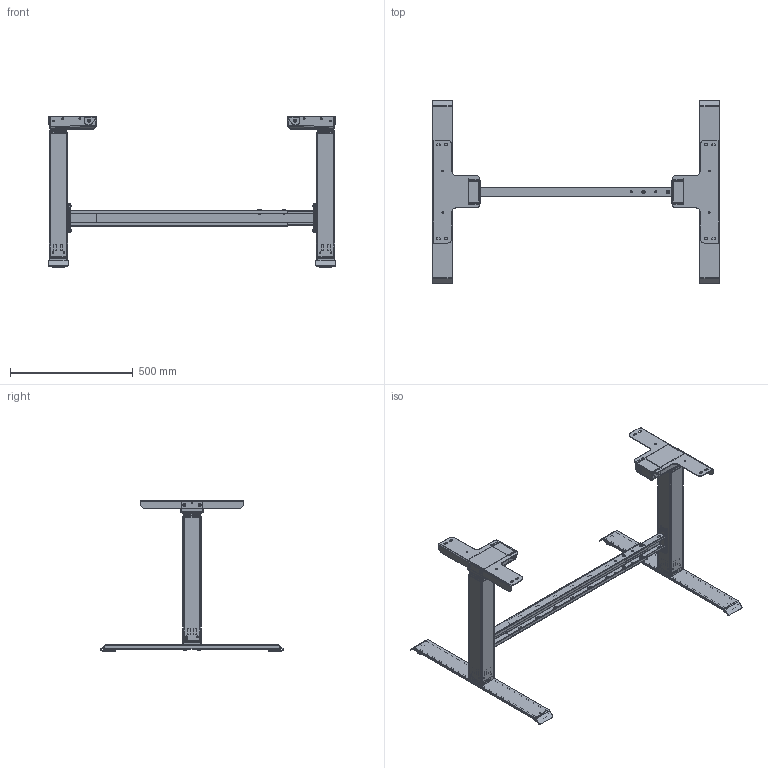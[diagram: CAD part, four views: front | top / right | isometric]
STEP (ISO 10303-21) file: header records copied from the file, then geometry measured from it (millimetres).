
FILE_DESCRIPTION(/* description */ ('Unknown'),/* implementation_level */ '2;1');
FILE_NAME(/* name */ 'Untergestell EA 2665 XX XX_00-Eingefahren',/* time_stamp */ '2025-11-05T10:37:11+01:00',/* author */ ('Unknown'),/* organization */ ('Unknown'),/* preprocessor_version */ 'ST-DEVELOPER v20',/* originating_system */ 'Solid Edge',/* authorisation */ 'Unknown');
FILE_SCHEMA (('AUTOMOTIVE_DESIGN {1 0 10303 214 3 1 1}'));
Products named in the file (22): Untergestell EA 2655 XX XX; 127.00821; EA2 Tischfuss unten; EA2 Tischfuss oben; Regulierfuss; 801.00036; EA Aussenprofil; EA Mittelprofil; EA Innenprofil; EA Motorengehäuse; EA Deckel; EA Molex; 127.00842; E1 Traverse aussen; E1 Traverse innen; Halbrundkopfschraube M6x16; Scheibe ﾘ6,4; Sechskantmutter M6; Halbrundkopfschraube M8x10; 127.00801; Senkschraube M6x12; Halbrundkopfschraube M6x32
Assembly tree (51 placements, depth 3):
  Untergestell EA 2655 XX XX
    127.00821  x2
      EA2 Tischfuss unten
      EA2 Tischfuss oben
      Regulierfuss
    801.00036  x2
      EA Aussenprofil
      EA Mittelprofil
      EA Innenprofil
      EA Motorengehäuse
      EA Deckel
      EA Molex
    127.00842
      E1 Traverse aussen
      E1 Traverse innen
      Halbrundkopfschraube M6x16  x4
      Scheibe ﾘ6,4  x4
      Sechskantmutter M6  x4
      Halbrundkopfschraube M8x10  x4
    127.00801  x2
    Senkschraube M6x12  x8
    Halbrundkopfschraube M6x32  x8
Bounding box: 1171 x 749.98 x 620 mm (x, y, z)
Volume: 3747273.6 mm3; surface area: 3369927.7 mm2
Topology: 60 solids, 60 shells, 3377 faces, 9093 edges, 5920 vertices
Faces by surface type: plane 1606, cylinder 1091, cone 308, torus 240, bspline 112, sphere 20
Full cylindrical faces by diameter (mm): 4.2 x4, 4.5 x8, 4.917 x28, 5.6 x16, 5.7 x16, 5.75 x4, 6 x26, 6.4 x4, 6.647 x4, 6.8 x4, 7.2 x12, 8 x4, 12 x12, 13.6 x4, 14 x4
Entity records: 55950 total; most frequent: CARTESIAN_POINT 13304, ORIENTED_EDGE 8300, DIRECTION 7531, EDGE_CURVE 4150, VERTEX_POINT 2759, AXIS2_PLACEMENT_3D 2605, LINE 2321, VECTOR 2321
